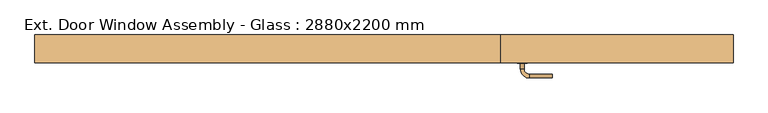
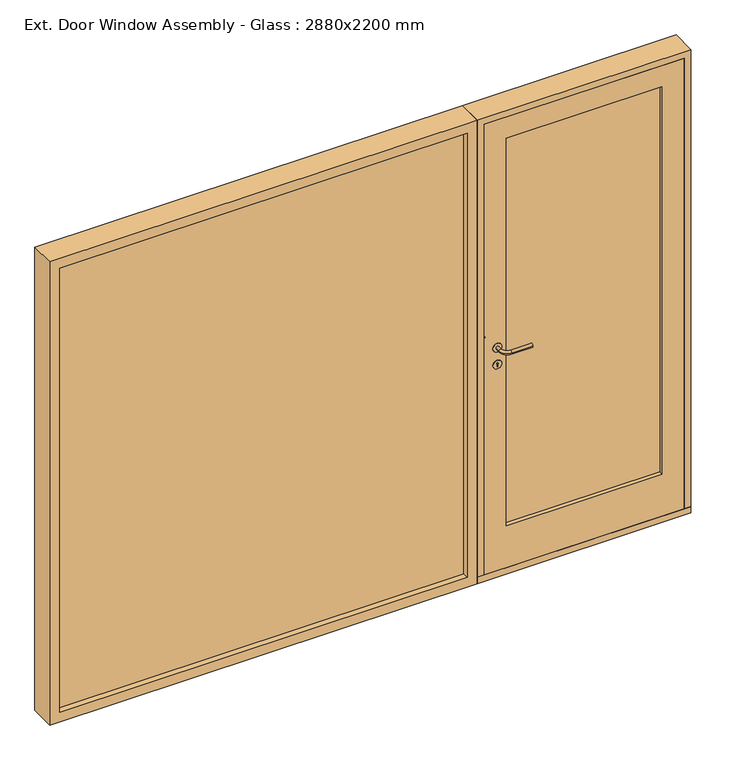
"""IFC4 building model written with IfcOpenShell, lengths in millimetres: door geometry, Ext. Door Window Assembly - Glass : 2880x2200 mm."""

from ifc_helpers import new_model, si_unit, point, frame, frame_2d, origin, place, context, project, spatial, polyline, circle_curve, ellipse_curve, trimmed, segment, composite_curve, outline, extrude, faceted_brep, source, transform, mapped, element, save
from ifc_brep_helpers import plane_surface, cylinder_surface, revolved_surface, advanced_brep


def ext_door_window_assembly_glass_2880x2200_mm_8e24472b(model_context):
    return source(origin(), model_context, "Body", "SolidModel", [
        extrude(outline(polyline([(435.0, -140.0), (435.0, -162.0), (-1395.0, -162.0), (-1395.0, -140.0), (435.0, -140.0)])), frame((0.0, 0.0, 45.0), z_axis=(0.0, 0.0, 1.0), x_axis=(1.0, 0.0, 0.0)), (0.0, 0.0, 1.0), 2110.0),
        extrude(outline(polyline([(0.0, 480.0), (2200.0, 480.0), (2200.0, -1440.0), (0.0, -1440.0), (0.0, 480.0)]), holes=[polyline([(2155.0, 435.0), (45.0, 435.0), (45.0, -1395.0), (2155.0, -1395.0), (2155.0, 435.0)])]), frame((0.0, -190.0, 0.0), z_axis=(0.0, 1.0, 0.0), x_axis=(0.0, 0.0, 1.0)), (0.0, 0.0, 1.0), 115.0),
        extrude(outline(composite_curve([segment(trimmed(circle_curve(frame_2d((1090.0, 570.0)), 20.0), [point((1070.0, 570.0))], [point((1110.0, 570.0))], False, "CARTESIAN"), True, "CONTINUOUS"), segment(trimmed(circle_curve(frame_2d((1090.0, 570.0)), 20.0), [point((1110.0, 570.0))], [point((1070.0, 570.0))], False, "CARTESIAN"), True, "CONTINUOUS")], self_intersect=False)), frame((0.0, -192.0, 0.0), z_axis=(0.0, 1.0, 0.0), x_axis=(0.0, 0.0, 1.0)), (0.0, 0.0, 1.0), 2.0),
        advanced_brep(
        [(562.5, -192.0, 1090.0), (577.5, -192.0, 1090.0), (577.5, -214.5, 1090.0), (562.5, -214.5, 1090.0), (600.0, -237.0, 1090.0), (600.0, -252.0, 1090.0), (695.0, -237.0, 1090.0), (695.0, -252.0, 1090.0)],
        [
            (0, 1, circle_curve(frame((570.0, -192.0, 1090.0), z_axis=(0.0, 1.0, 0.0), x_axis=(1.0, 0.0, 0.0)), 7.5)),
            (1, 0, circle_curve(frame((570.0, -192.0, 1090.0), z_axis=(0.0, 1.0, 0.0), x_axis=(1.0, 0.0, 0.0)), 7.5)),
            (1, 2),
            (2, 3, circle_curve(frame((570.0, -214.5, 1090.0), z_axis=(0.0, 1.0, 0.0), x_axis=(1.0, 0.0, 0.0)), 7.5)),
            (3, 0),
            (3, 2, circle_curve(frame((570.0, -214.5, 1090.0), z_axis=(0.0, 1.0, 0.0), x_axis=(1.0, 0.0, 0.0)), 7.5)),
            (4, 5, circle_curve(frame((600.0, -244.5, 1090.0), z_axis=(-1.0, 0.0, 0.0), x_axis=(0.0, 1.0, 0.0)), 7.5)),
            (5, 3, circle_curve(frame((600.0, -214.5, 1090.0), z_axis=(0.0, 0.0, -1.0), x_axis=(-1.0, 0.0, 0.0)), 37.5)),
            (2, 4, circle_curve(frame((600.0, -214.5, 1090.0), z_axis=(0.0, 0.0, 1.0), x_axis=(-1.0, 0.0, 0.0)), 22.5)),
            (5, 4, circle_curve(frame((600.0, -244.5, 1090.0), z_axis=(-1.0, 0.0, 0.0), x_axis=(0.0, 1.0, 0.0)), 7.5)),
            (4, 6),
            (6, 7, circle_curve(frame((695.0, -244.5, 1090.0), z_axis=(-1.0, 0.0, 0.0), x_axis=(0.0, 1.0, 0.0)), 7.5)),
            (7, 5),
            (7, 6, circle_curve(frame((695.0, -244.5, 1090.0), z_axis=(-1.0, 0.0, 0.0), x_axis=(0.0, 1.0, 0.0)), 7.5)),
        ],
        [
            plane_surface(frame((570.0, -192.0, 1090.0), z_axis=(0.0, 1.0, 0.0), x_axis=(0.0, 0.0, -1.0))),
            cylinder_surface(frame((570.0, -192.0, 1090.0), z_axis=(0.0, 1.0, 0.0), x_axis=(1.0, 0.0, 0.0)), 7.5),
            revolved_surface(trimmed(ellipse_curve(frame((570.0, -214.5, 1090.0), z_axis=(0.0, -1.0, 0.0), x_axis=(1.0, 0.0, 0.0)), 7.5, 7.5), [point((562.5, -214.5, 1090.0))], [point((577.5, -214.5, 1090.0))], True, "CARTESIAN"), (600.0, -214.5, 1090.0), (0.0, 0.0, -1.0)),
            revolved_surface(trimmed(ellipse_curve(frame((570.0, -214.5, 1090.0), z_axis=(0.0, -1.0, 0.0), x_axis=(1.0, 0.0, 0.0)), 7.5, 7.5), [point((577.5, -214.5, 1090.0))], [point((562.5, -214.5, 1090.0))], True, "CARTESIAN"), (600.0, -214.5, 1090.0), (0.0, 0.0, -1.0)),
            cylinder_surface(frame((600.0, -244.5, 1090.0), z_axis=(-1.0, 0.0, 0.0), x_axis=(0.0, 1.0, 0.0)), 7.5),
            plane_surface(frame((695.0, -244.5, 1090.0), z_axis=(1.0, 0.0, 0.0), x_axis=(0.0, 0.0, -1.0))),
        ],
        [
            (0, [[1, 2]]),
            (1, [[3, 4, 5, -2]]),
            (1, [[-5, 6, -3, -1]]),
            (2, [[7, 8, -4, 9]]),
            (3, [[10, -9, -6, -8]]),
            (4, [[11, 12, 13, -7]]),
            (4, [[-13, 14, -11, -10]]),
            (5, [[-12, -14]]),
        ],
    ),
        extrude(outline(composite_curve([segment(trimmed(circle_curve(frame_2d((1010.0, 570.0)), 20.0), [point((990.0, 570.0))], [point((1030.0, 570.0))], False, "CARTESIAN"), True, "CONTINUOUS"), segment(trimmed(circle_curve(frame_2d((1010.0, 570.0)), 20.0), [point((1030.0, 570.0))], [point((990.0, 570.0))], False, "CARTESIAN"), True, "CONTINUOUS")], self_intersect=False), holes=[composite_curve([segment(trimmed(circle_curve(frame_2d((1015.0, 570.0)), 3.0), [point((1012.4019238, 568.5))], [point((1012.4019238, 571.5))], True, "CARTESIAN"), True, "CONTINUOUS"), segment(polyline([(1012.4019238, 571.5), (1000.0, 571.5), (1000.0, 568.5), (1012.4019238, 568.5)]), True, "CONTINUOUS")], self_intersect=False)]), frame((0.0, -192.0, 0.0), z_axis=(0.0, 1.0, 0.0), x_axis=(0.0, 0.0, 1.0)), (0.0, 0.0, 1.0), 2.0),
        extrude(outline(composite_curve([segment(trimmed(circle_curve(frame_2d((1090.0, 570.0)), 20.0), [point((1070.0, 570.0))], [point((1110.0, 570.0))], False, "CARTESIAN"), True, "CONTINUOUS"), segment(trimmed(circle_curve(frame_2d((1090.0, 570.0)), 20.0), [point((1110.0, 570.0))], [point((1070.0, 570.0))], False, "CARTESIAN"), True, "CONTINUOUS")], self_intersect=False)), frame((0.0, -140.0, 0.0), z_axis=(0.0, 1.0, 0.0), x_axis=(0.0, 0.0, 1.0)), (0.0, 0.0, 1.0), 2.0),
        advanced_brep(
        [(562.5, -138.0, 1090.0), (577.5, -138.0, 1090.0), (562.5, -115.5, 1090.0), (577.5, -115.5, 1090.0), (600.0, -93.0, 1090.0), (600.0, -78.0, 1090.0), (695.0, -78.0, 1090.0), (695.0, -93.0, 1090.0)],
        [
            (0, 1, circle_curve(frame((570.0, -138.0, 1090.0), z_axis=(0.0, -1.0, 0.0), x_axis=(1.0, 0.0, 0.0)), 7.5)),
            (1, 0, circle_curve(frame((570.0, -138.0, 1090.0), z_axis=(0.0, -1.0, 0.0), x_axis=(1.0, 0.0, 0.0)), 7.5)),
            (0, 2),
            (2, 3, circle_curve(frame((570.0, -115.5, 1090.0), z_axis=(0.0, -1.0, 0.0), x_axis=(1.0, 0.0, 0.0)), 7.5)),
            (3, 1),
            (3, 2, circle_curve(frame((570.0, -115.5, 1090.0), z_axis=(0.0, -1.0, 0.0), x_axis=(1.0, 0.0, 0.0)), 7.5)),
            (4, 3, circle_curve(frame((600.0, -115.5, 1090.0), z_axis=(0.0, 0.0, 1.0), x_axis=(-1.0, 0.0, 0.0)), 22.5)),
            (2, 5, circle_curve(frame((600.0, -115.5, 1090.0), z_axis=(0.0, 0.0, -1.0), x_axis=(-1.0, 0.0, 0.0)), 37.5)),
            (5, 4, circle_curve(frame((600.0, -85.5, 1090.0), z_axis=(-1.0, 0.0, 0.0), x_axis=(0.0, -1.0, 0.0)), 7.5)),
            (4, 5, circle_curve(frame((600.0, -85.5, 1090.0), z_axis=(-1.0, 0.0, 0.0), x_axis=(0.0, -1.0, 0.0)), 7.5)),
            (5, 6),
            (6, 7, circle_curve(frame((695.0, -85.5, 1090.0), z_axis=(-1.0, 0.0, 0.0), x_axis=(0.0, -1.0, 0.0)), 7.5)),
            (7, 4),
            (7, 6, circle_curve(frame((695.0, -85.5, 1090.0), z_axis=(-1.0, 0.0, 0.0), x_axis=(0.0, -1.0, 0.0)), 7.5)),
        ],
        [
            plane_surface(frame((570.0, -138.0, 1090.0), z_axis=(0.0, -1.0, 0.0), x_axis=(0.0, 0.0, -1.0))),
            cylinder_surface(frame((570.0, -138.0, 1090.0), z_axis=(0.0, -1.0, 0.0), x_axis=(1.0, 0.0, 0.0)), 7.5),
            revolved_surface(trimmed(ellipse_curve(frame((570.0, -115.5, 1090.0), z_axis=(0.0, -1.0, 0.0), x_axis=(1.0, 0.0, 0.0)), 7.5, 7.5), [point((562.5, -115.5, 1090.0))], [point((577.5, -115.5, 1090.0))], True, "CARTESIAN"), (600.0, -115.5, 1090.0), (0.0, 0.0, -1.0)),
            revolved_surface(trimmed(ellipse_curve(frame((570.0, -115.5, 1090.0), z_axis=(0.0, -1.0, 0.0), x_axis=(1.0, 0.0, 0.0)), 7.5, 7.5), [point((577.5, -115.5, 1090.0))], [point((562.5, -115.5, 1090.0))], True, "CARTESIAN"), (600.0, -115.5, 1090.0), (0.0, 0.0, -1.0)),
            cylinder_surface(frame((600.0, -85.5, 1090.0), z_axis=(-1.0, 0.0, 0.0), x_axis=(0.0, -1.0, 0.0)), 7.5),
            plane_surface(frame((695.0, -85.5, 1090.0), z_axis=(1.0, 0.0, 0.0), x_axis=(0.0, 0.0, -1.0))),
        ],
        [
            (0, [[1, 2]]),
            (1, [[-1, 3, 4, 5]]),
            (1, [[-2, -5, 6, -3]]),
            (2, [[7, -4, 8, 9]]),
            (3, [[-8, -6, -7, 10]]),
            (4, [[-9, 11, 12, 13]]),
            (4, [[-10, -13, 14, -11]]),
            (5, [[-14, -12]]),
        ],
    ),
        extrude(outline(composite_curve([segment(trimmed(circle_curve(frame_2d((1010.0, 570.0)), 20.0), [point((990.0, 570.0))], [point((1030.0, 570.0))], False, "CARTESIAN"), True, "CONTINUOUS"), segment(trimmed(circle_curve(frame_2d((1010.0, 570.0)), 20.0), [point((1030.0, 570.0))], [point((990.0, 570.0))], False, "CARTESIAN"), True, "CONTINUOUS")], self_intersect=False), holes=[composite_curve([segment(trimmed(circle_curve(frame_2d((1015.0, 570.0)), 3.0), [point((1012.4019238, 568.5))], [point((1012.4019238, 571.5))], True, "CARTESIAN"), True, "CONTINUOUS"), segment(polyline([(1012.4019238, 571.5), (1000.0, 571.5), (1000.0, 568.5), (1012.4019238, 568.5)]), True, "CONTINUOUS")], self_intersect=False)]), frame((0.0, -140.0, 0.0), z_axis=(0.0, 1.0, 0.0), x_axis=(0.0, 0.0, 1.0)), (0.0, 0.0, 1.0), 2.0),
        extrude(outline(polyline([(-140.0, 45.0), (-75.0, 45.0), (-75.0, 0.0), (-190.0, 0.0), (-190.0, 30.0), (-140.0, 30.0), (-140.0, 45.0)])), frame((480.0, 0.0, 0.0), z_axis=(1.0, 0.0, 0.0), x_axis=(0.0, 1.0, 0.0)), (0.0, 0.0, 1.0), 960.0),
        extrude(outline(polyline([(1310.0, -156.6666667), (1310.0, -173.3333333), (610.0, -173.3333333), (610.0, -156.6666667), (1310.0, -156.6666667)])), frame((0.0, 0.0, 230.0), z_axis=(0.0, 0.0, 1.0), x_axis=(1.0, 0.0, 0.0)), (0.0, 0.0, 1.0), 1840.0),
        faceted_brep([(510.0, -140.0, 2170.0), (510.0, -140.0, 45.0), (525.0, -140.0, 45.0), (525.0, -140.0, 2155.0), (1395.0, -140.0, 2155.0), (1395.0, -140.0, 45.0), (1410.0, -140.0, 45.0), (1410.0, -140.0, 2170.0), (510.0, -190.0, 2170.0), (510.0, -190.0, 30.0), (510.0, -140.0, 30.0), (1410.0, -140.0, 30.0), (1440.0, -140.0, 45.0), (1440.0, -140.0, 30.0), (480.0, -140.0, 30.0), (480.0, -140.0, 45.0), (480.0, -190.0, 30.0), (1440.0, -190.0, 30.0), (1410.0, -190.0, 30.0), (480.0, -190.0, 2200.0), (1410.0, -190.0, 2170.0), (1440.0, -190.0, 2200.0), (1395.0, -75.0, 45.0), (1440.0, -75.0, 45.0), (480.0, -75.0, 45.0), (525.0, -75.0, 45.0), (1395.0, -75.0, 2155.0), (525.0, -75.0, 2155.0), (480.0, -75.0, 2200.0), (1440.0, -75.0, 2200.0)], [[[0, 1, 2, 3, 4, 5, 6, 7]], [[8, 9, 10, 1, 0]], [[11, 6, 12, 13]], [[14, 15, 1, 10]], [[10, 9, 16, 14]], [[13, 17, 18, 11]], [[19, 16, 9, 8, 20, 18, 17, 21]], [[7, 6, 11, 18, 20]], [[6, 5, 22, 23, 12]], [[15, 24, 25, 2, 1]], [[26, 22, 5, 4]], [[3, 2, 25, 27]], [[27, 25, 24, 28, 29, 23, 22, 26]], [[21, 17, 13, 12, 23, 29]], [[28, 24, 15, 14, 16, 19]], [[0, 7, 20, 8]], [[3, 27, 26, 4]], [[28, 19, 21, 29]]]),
        extrude(outline(polyline([(2170.0, 510.0), (30.0, 510.0), (30.0, 1410.0), (2170.0, 1410.0), (2170.0, 510.0)]), holes=[polyline([(2070.0, 610.0), (2070.0, 1310.0), (230.0, 1310.0), (230.0, 610.0), (2070.0, 610.0)])]), frame((0.0, -190.0, 0.0), z_axis=(0.0, 1.0, 0.0), x_axis=(0.0, 0.0, 1.0)), (0.0, 0.0, 1.0), 50.0),
    ])


if __name__ == "__main__":
    model = new_model("IFC4")
    model_context = context("Model", 3, world=origin())
    ifc_project = project(units=[si_unit("LENGTHUNIT", "METRE", prefix="MILLI")], contexts=[model_context])
    site = spatial("IfcSite", under=ifc_project)
    building = spatial("IfcBuilding", under=site)
    placement = place(None, origin())
    ext_door_window_assembly_glass_2880x2200_mm_shape = ext_door_window_assembly_glass_2880x2200_mm_8e24472b(model_context)
    element("IfcDoor", 1, ObjectType="Ext. Door Window Assembly - Glass : 2880x2200 mm", at=placement, inside=building, context=model_context, shape_type="MappedRepresentation", body=[
        mapped(ext_door_window_assembly_glass_2880x2200_mm_shape, transform((0.0, 0.0, 0.0), x_axis=(1.0, 0.0, 0.0), y_axis=(0.0, 1.0, 0.0), z_axis=(0.0, 0.0, 1.0))),
    ])
    save(model, "model.ifc")
